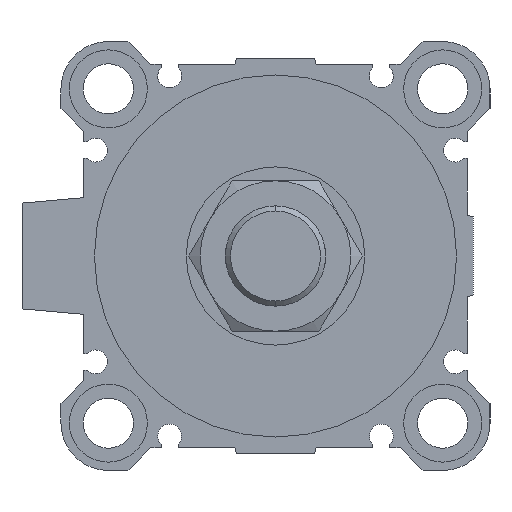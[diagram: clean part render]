
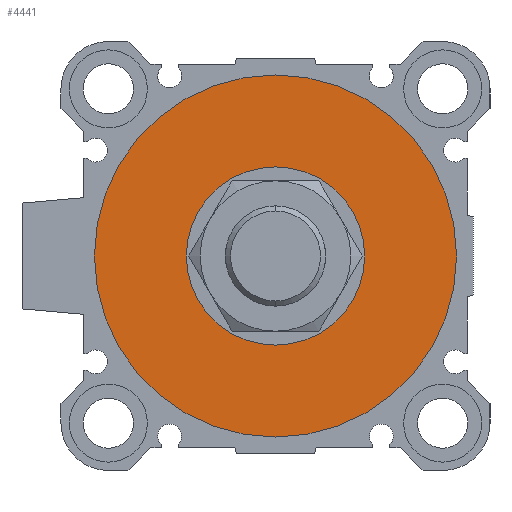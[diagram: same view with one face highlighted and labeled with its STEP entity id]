
A CAD part, left-side view. The second image highlights one B-rep face of the part: STEP entity #4441.
In plain terms, the highlighted planar face has unit normal (-1, 0, 0).
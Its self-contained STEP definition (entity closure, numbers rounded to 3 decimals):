
#366 = DIRECTION ( 'NONE',  ( 1., 0., 0. ) ) ;
#748 = DIRECTION ( 'NONE',  ( 1., 0., 0. ) ) ;
#1180 = VERTEX_POINT ( 'NONE', #2270 ) ;
#1336 = ORIENTED_EDGE ( 'NONE', *, *, #4350, .T. ) ;
#1347 = CARTESIAN_POINT ( 'NONE',  ( 4., 0., 0. ) ) ;
#1404 = EDGE_CURVE ( 'NONE', #1180, #4664, #5175, .T. ) ;
#1450 = EDGE_LOOP ( 'NONE', ( #6077, #3512 ) ) ;
#1467 = FACE_BOUND ( 'NONE', #2907, .T. ) ;
#1779 = AXIS2_PLACEMENT_3D ( 'NONE', #5407, #4905, #3032 ) ;
#2079 = DIRECTION ( 'NONE',  ( 0., 1., 0. ) ) ;
#2164 = CIRCLE ( 'NONE', #3993, 16. ) ;
#2191 = CARTESIAN_POINT ( 'NONE',  ( 4., 0., -32.5 ) ) ;
#2270 = CARTESIAN_POINT ( 'NONE',  ( 4., 0., -16. ) ) ;
#2655 = CARTESIAN_POINT ( 'NONE',  ( 4., 0., 0. ) ) ;
#2851 = EDGE_CURVE ( 'NONE', #3365, #4692, #6464, .T. ) ;
#2907 = EDGE_LOOP ( 'NONE', ( #1336, #5626 ) ) ;
#2991 = DIRECTION ( 'NONE',  ( 1., 0., 0. ) ) ;
#3002 = DIRECTION ( 'NONE',  ( 1., 0., 0. ) ) ;
#3032 = DIRECTION ( 'NONE',  ( 0., 0., -1. ) ) ;
#3038 = DIRECTION ( 'NONE',  ( 0., 0., -1. ) ) ;
#3069 = DIRECTION ( 'NONE',  ( 0., 0., -1. ) ) ;
#3249 = CARTESIAN_POINT ( 'NONE',  ( 4., 0., 32.5 ) ) ;
#3365 = VERTEX_POINT ( 'NONE', #2191 ) ;
#3512 = ORIENTED_EDGE ( 'NONE', *, *, #2851, .F. ) ;
#3649 = FACE_OUTER_BOUND ( 'NONE', #1450, .T. ) ;
#3993 = AXIS2_PLACEMENT_3D ( 'NONE', #5516, #3002, #3038 ) ;
#4032 = AXIS2_PLACEMENT_3D ( 'NONE', #1347, #2991, #5326 ) ;
#4319 = AXIS2_PLACEMENT_3D ( 'NONE', #4719, #748, #3069 ) ;
#4350 = EDGE_CURVE ( 'NONE', #4664, #1180, #2164, .T. ) ;
#4441 = ADVANCED_FACE ( 'NONE', ( #3649, #1467 ), #7360, .F. ) ;
#4664 = VERTEX_POINT ( 'NONE', #6389 ) ;
#4692 = VERTEX_POINT ( 'NONE', #3249 ) ;
#4719 = CARTESIAN_POINT ( 'NONE',  ( 4., 0., 0. ) ) ;
#4905 = DIRECTION ( 'NONE',  ( 1., 0., 0. ) ) ;
#5175 = CIRCLE ( 'NONE', #4319, 16. ) ;
#5326 = DIRECTION ( 'NONE',  ( 0., 0., -1. ) ) ;
#5345 = EDGE_CURVE ( 'NONE', #4692, #3365, #5690, .T. ) ;
#5407 = CARTESIAN_POINT ( 'NONE',  ( 4., 0., 0. ) ) ;
#5516 = CARTESIAN_POINT ( 'NONE',  ( 4., 0., 0. ) ) ;
#5583 = AXIS2_PLACEMENT_3D ( 'NONE', #2655, #366, #2079 ) ;
#5626 = ORIENTED_EDGE ( 'NONE', *, *, #1404, .T. ) ;
#5690 = CIRCLE ( 'NONE', #1779, 32.5 ) ;
#6077 = ORIENTED_EDGE ( 'NONE', *, *, #5345, .F. ) ;
#6389 = CARTESIAN_POINT ( 'NONE',  ( 4., 0., 16. ) ) ;
#6464 = CIRCLE ( 'NONE', #4032, 32.5 ) ;
#7360 = PLANE ( 'NONE',  #5583 ) ;
